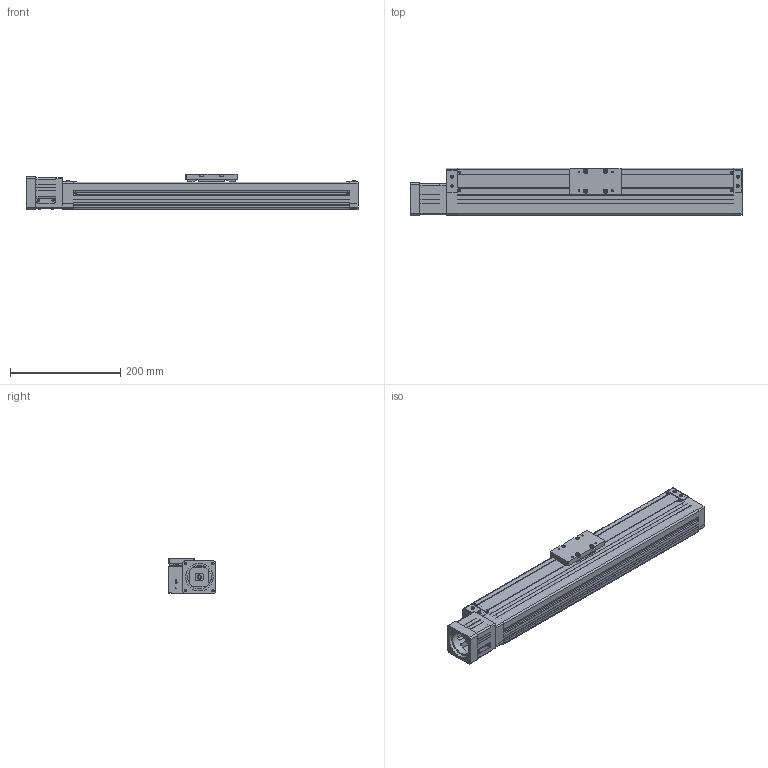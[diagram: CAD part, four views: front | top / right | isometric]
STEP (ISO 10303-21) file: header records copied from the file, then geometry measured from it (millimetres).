
FILE_DESCRIPTION((''),'2;1');
FILE_NAME('D:\製品 (図面)\カタログ用3D\SU部品\SU85×65\ダウンロード用\SU85×65-MB60\SU85×65-400-MB60.stp','2011-07-01T17:49:14',('Tsuchiya'),(''),'Autodesk Inventor 10','Autodesk Inventor 10','');
FILE_SCHEMA(('AUTOMOTIVE_DESIGN { 1 0 10303 214 1 1 1 1 }'));
Length unit declared in the file: millimetre
Products named in the file (3): SU85×65-400-MB60; SU85×65-400-MB601; SU85×65-400-MB602
Assembly tree (2 placements, depth 2):
  SU85×65-400-MB60
    SU85×65-400-MB601
    SU85×65-400-MB602
Bounding box: 601 x 86.45 x 65 mm (x, y, z)
Volume: 1126138.3 mm3; surface area: 380005.1 mm2
Topology: 8 solids, 8 shells, 837 faces, 2226 edges, 1442 vertices
Faces by surface type: plane 699, cylinder 104, cone 18, torus 12, bspline 4
Full cylindrical faces by diameter (mm): 3.242 x4, 4 x4, 4.134 x16, 4.5 x4, 5.5 x4, 6 x1, 7 x4, 8 x1, 11.5 x1, 12 x1, 13 x1, 43 x1, 50 x1
Entity records: 25734 total; most frequent: CARTESIAN_POINT 5179, ORIENTED_EDGE 4238, DIRECTION 4024, EDGE_CURVE 2119, VECTOR 1714, LINE 1714, VERTEX_POINT 1412, AXIS2_PLACEMENT_3D 1155
